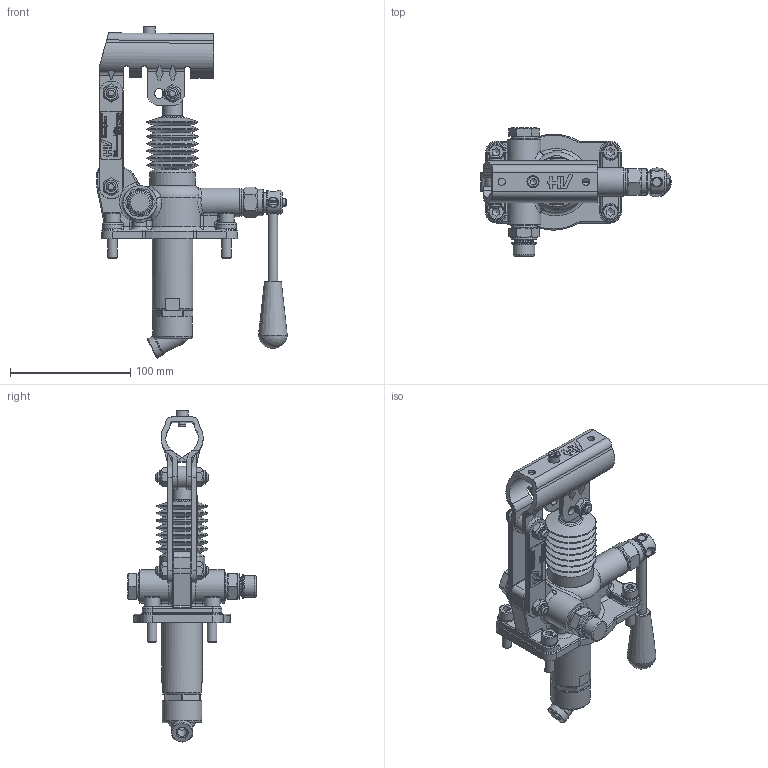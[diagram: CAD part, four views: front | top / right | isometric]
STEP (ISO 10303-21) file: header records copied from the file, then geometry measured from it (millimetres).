
FILE_DESCRIPTION((''),'2;1');
FILE_NAME('G:\HV_HYDRAULIC\AZIENDA_HV_HYDRAULIC\ARCHIVIO_DISEGNI\5_PRODOTTI_FINITI\1_POMPE_MANUALI\6051_PM_25\6051.0122_PM_25_L-s_(HV)\6051.0122.stp','2024-02-28T12:17:28',('christian.scardovi'),(''),'Autodesk Inventor 2013','Autodesk Inventor 2013','');
FILE_SCHEMA(('AUTOMOTIVE_DESIGN { 1 0 10303 214 1 1 1 1 }'));
Length unit declared in the file: millimetre
Products named in the file (1): 6051.0122
Bounding box: 158.49 x 106.5 x 276.08 mm (x, y, z)
Surface area: 124090.4 mm2
Topology: 2 solids, 3 shells, 1431 faces, 3629 edges, 2298 vertices
Faces by surface type: plane 705, cylinder 293, bspline 190, cone 138, torus 89, sphere 16
Full cylindrical faces by diameter (mm): 4.917 x1, 5 x5, 6 x5, 6.5 x2, 8 x18, 9 x2, 9.2 x1, 10 x4, 10.376 x1, 11.05 x6, 12 x5, 13 x4, 13.2 x1, 14 x4, 14.95 x3, 16 x4, 16.6 x1, 17.6 x1, 18 x5, 20 x2, 21 x3, 21.8 x2, 22 x1, 23 x4, 24 x1, 25 x2, 26.5 x1, 28 x1, 29 x1, 33 x1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
Entity records: 45021 total; most frequent: CARTESIAN_POINT 11693, ORIENTED_EDGE 6642, DIRECTION 6065, EDGE_CURVE 3321, VERTEX_POINT 2220, AXIS2_PLACEMENT_3D 2125, VECTOR 1815, LINE 1815
